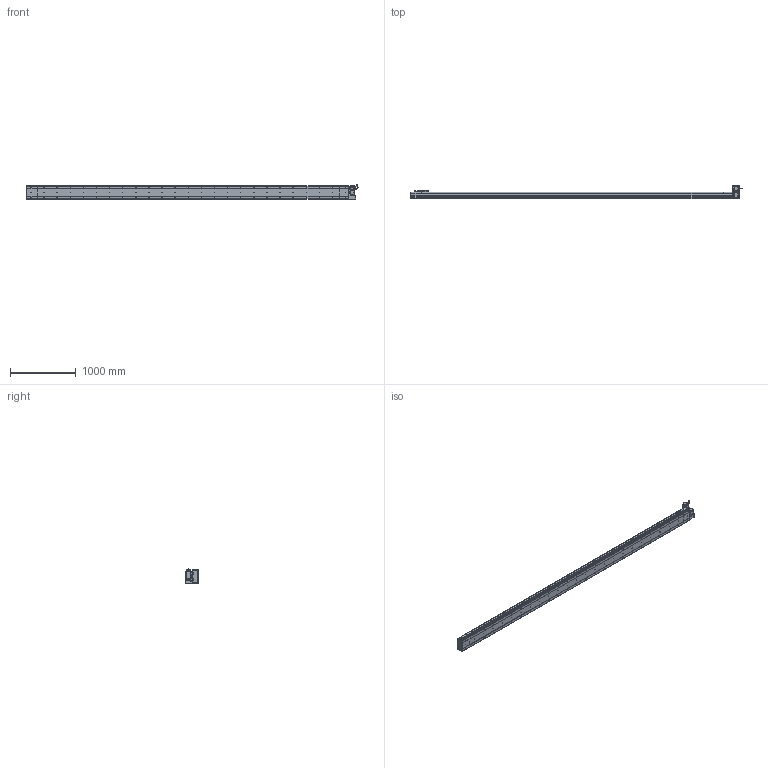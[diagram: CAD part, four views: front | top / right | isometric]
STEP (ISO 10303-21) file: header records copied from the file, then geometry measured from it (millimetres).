
FILE_DESCRIPTION (( 'STEP AP214' ), '1' );
FILE_NAME ('D20 CBH RT S4600.STEP', '2010-06-30T11:45:43', ( 'Conseil Régional Haute-Normandie' ), ( 'Conseil Régional Haute-Normandie' ), 'SwSTEP 2.0', 'SolidWorks 2010', '' );
FILE_SCHEMA (( 'AUTOMOTIVE_DESIGN' ));
Length unit declared in the file: millimetre
Products named in the file (31): Rondelle Cache D20 RT_Default; vis M5 L15_Default; Plaque De Serrage D20_Default; Plaque de Bout Tail D20_Default; Glissiere_Default; Chariot D20_Default; Support Chariot D20_Default; Couvercle_Default; Corp Tail D20_Default; Tail D20_Default; Couvercle S4600_Default; Corp S4600_Default; Corp D20 S4600_Default; Head RT_Default; D20 CBH RT S4600; Plaque de Bout Head D20 RT_Default; Couvercle RT_Default; Corp Tail D20 RT_Default; Moteur motionking 90BLDC125A-640; Support moteur RT_Default; Plaque De Serrage D20 RT_Default; codeur 90BLDC125-640; corps 90BLDC125A-640; avant 90BLDC125A-640; ecrou_Default; vis M5 L30_Default; Conecteur_Default; Conecteur2_Default; vis M5 L47_Default; Cache Support Moteur RT_Default
Assembly tree (68 placements, depth 4):
  D20 CBH RT S4600
    Tail D20_Default
      vis M5 L15_Default  x6
      Corp Tail D20_Default
      Plaque de Bout Tail D20_Default
      Plaque De Serrage D20_Default
      Couvercle_Default
    Chariot D20_Default
      vis M5 L15_Default  x8
      Support Chariot D20_Default
      Glissiere_Default
      Chariot D20_Default
    Head RT_Default
      vis M5 L15_Default  x14
      Rondelle Cache D20 RT_Default  x3
      Plaque De Serrage D20 RT_Default
      vis M5 L30_Default  x4
      ecrou_Default  x4
      Moteur motionking 90BLDC125A-640
        avant 90BLDC125A-640
        codeur 90BLDC125-640
        Conecteur_Default
        Conecteur2_Default
        corps 90BLDC125A-640
      vis M5 L47_Default  x4
      Cache Support Moteur RT_Default
      Couvercle RT_Default
      Corp Tail D20 RT_Default
      Plaque de Bout Head D20 RT_Default
      Support moteur RT_Default
    Corp D20 S4600_Default
      Corp S4600_Default
      Couvercle S4600_Default
Bounding box: 5064.45 x 206.5 x 229.7 mm (x, y, z)
Volume: 33350090 mm3; surface area: 6329197.4 mm2
Topology: 105 solids, 105 shells, 3934 faces, 9732 edges, 6322 vertices
Faces by surface type: plane 2167, bspline 806, cylinder 790, torus 95, cone 72, sphere 4
Entity records: 162542 total; most frequent: CARTESIAN_POINT 82820, ORIENTED_EDGE 15732, DIRECTION 12238, EDGE_CURVE 7866, VERTEX_POINT 5206, VECTOR 5014, LINE 5014, AXIS2_PLACEMENT_3D 3612
